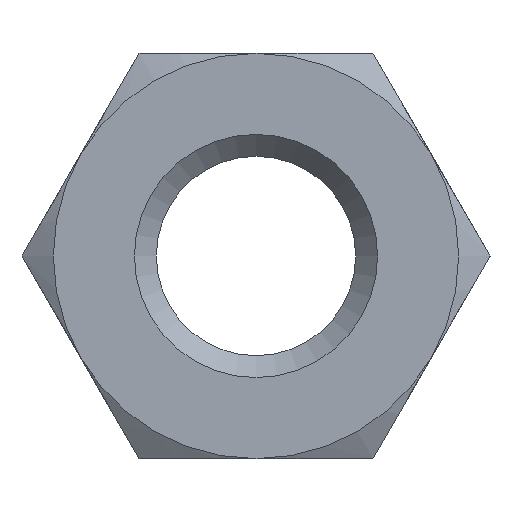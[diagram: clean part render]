
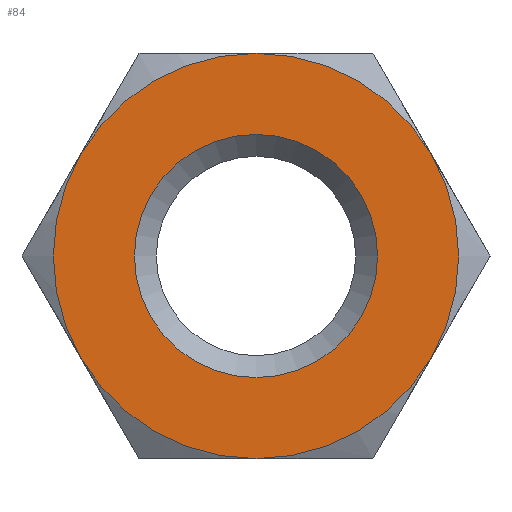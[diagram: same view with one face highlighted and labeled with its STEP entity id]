
A CAD part, left-side view. The second image highlights one B-rep face of the part: STEP entity #84.
In plain terms, the highlighted planar face has unit normal (-1, 0, 0).
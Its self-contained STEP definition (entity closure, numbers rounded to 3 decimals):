
#84 = ADVANCED_FACE( '', ( #118, #119 ), #120, .F. );
#118 = FACE_OUTER_BOUND( '', #169, .T. );
#119 = FACE_BOUND( '', #170, .T. );
#120 = PLANE( '', #171 );
#169 = EDGE_LOOP( '', ( #268, #269, #270, #271, #272, #273 ) );
#170 = EDGE_LOOP( '', ( #274 ) );
#171 = AXIS2_PLACEMENT_3D( '', #275, #276, #277 );
#268 = ORIENTED_EDGE( '', *, *, #391, .F. );
#269 = ORIENTED_EDGE( '', *, *, #392, .F. );
#270 = ORIENTED_EDGE( '', *, *, #393, .F. );
#271 = ORIENTED_EDGE( '', *, *, #389, .F. );
#272 = ORIENTED_EDGE( '', *, *, #387, .F. );
#273 = ORIENTED_EDGE( '', *, *, #388, .F. );
#274 = ORIENTED_EDGE( '', *, *, #394, .T. );
#275 = CARTESIAN_POINT( '', ( 0., 0., 0. ) );
#276 = DIRECTION( '', ( 1., 0., 0. ) );
#277 = DIRECTION( '', ( 0., 0., -1. ) );
#387 = EDGE_CURVE( '', #417, #435, #451, .T. );
#388 = EDGE_CURVE( '', #426, #417, #452, .T. );
#389 = EDGE_CURVE( '', #435, #453, #454, .T. );
#391 = EDGE_CURVE( '', #456, #426, #457, .T. );
#392 = EDGE_CURVE( '', #458, #456, #459, .T. );
#393 = EDGE_CURVE( '', #453, #458, #460, .T. );
#394 = EDGE_CURVE( '', #461, #461, #462, .T. );
#417 = VERTEX_POINT( '', #503 );
#426 = VERTEX_POINT( '', #533 );
#435 = VERTEX_POINT( '', #563 );
#451 = CIRCLE( '', #599, 5. );
#452 = CIRCLE( '', #600, 5. );
#453 = VERTEX_POINT( '', #601 );
#454 = CIRCLE( '', #602, 5. );
#456 = VERTEX_POINT( '', #611 );
#457 = CIRCLE( '', #612, 5. );
#458 = VERTEX_POINT( '', #613 );
#459 = CIRCLE( '', #614, 5. );
#460 = CIRCLE( '', #615, 5. );
#461 = VERTEX_POINT( '', #616 );
#462 = CIRCLE( '', #617, 3. );
#503 = CARTESIAN_POINT( '', ( 0., 0., 5. ) );
#533 = CARTESIAN_POINT( '', ( 0., 4.33, 2.5 ) );
#563 = CARTESIAN_POINT( '', ( 0., -4.33, 2.5 ) );
#599 = AXIS2_PLACEMENT_3D( '', #707, #708, #709 );
#600 = AXIS2_PLACEMENT_3D( '', #710, #711, #712 );
#601 = CARTESIAN_POINT( '', ( 0., -4.33, -2.5 ) );
#602 = AXIS2_PLACEMENT_3D( '', #713, #714, #715 );
#611 = CARTESIAN_POINT( '', ( 0., 4.33, -2.5 ) );
#612 = AXIS2_PLACEMENT_3D( '', #716, #717, #718 );
#613 = CARTESIAN_POINT( '', ( 0., 0., -5. ) );
#614 = AXIS2_PLACEMENT_3D( '', #719, #720, #721 );
#615 = AXIS2_PLACEMENT_3D( '', #722, #723, #724 );
#616 = CARTESIAN_POINT( '', ( 0., 0., -3. ) );
#617 = AXIS2_PLACEMENT_3D( '', #725, #726, #727 );
#707 = CARTESIAN_POINT( '', ( 0., 0., 0. ) );
#708 = DIRECTION( '', ( 1., 0., 0. ) );
#709 = DIRECTION( '', ( 0., 0., -1. ) );
#710 = CARTESIAN_POINT( '', ( 0., 0., 0. ) );
#711 = DIRECTION( '', ( 1., 0., 0. ) );
#712 = DIRECTION( '', ( 0., 0., -1. ) );
#713 = CARTESIAN_POINT( '', ( 0., 0., 0. ) );
#714 = DIRECTION( '', ( 1., 0., 0. ) );
#715 = DIRECTION( '', ( 0., 0., -1. ) );
#716 = CARTESIAN_POINT( '', ( 0., 0., 0. ) );
#717 = DIRECTION( '', ( 1., 0., 0. ) );
#718 = DIRECTION( '', ( 0., 0., -1. ) );
#719 = CARTESIAN_POINT( '', ( 0., 0., 0. ) );
#720 = DIRECTION( '', ( 1., 0., 0. ) );
#721 = DIRECTION( '', ( 0., 0., -1. ) );
#722 = CARTESIAN_POINT( '', ( 0., 0., 0. ) );
#723 = DIRECTION( '', ( 1., 0., 0. ) );
#724 = DIRECTION( '', ( 0., 0., -1. ) );
#725 = CARTESIAN_POINT( '', ( 0., 0., 0. ) );
#726 = DIRECTION( '', ( 1., 0., 0. ) );
#727 = DIRECTION( '', ( 0., 0., -1. ) );
